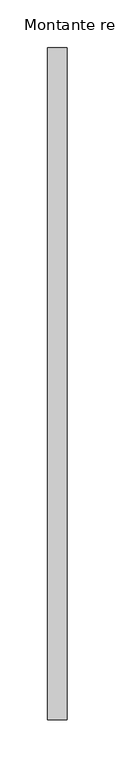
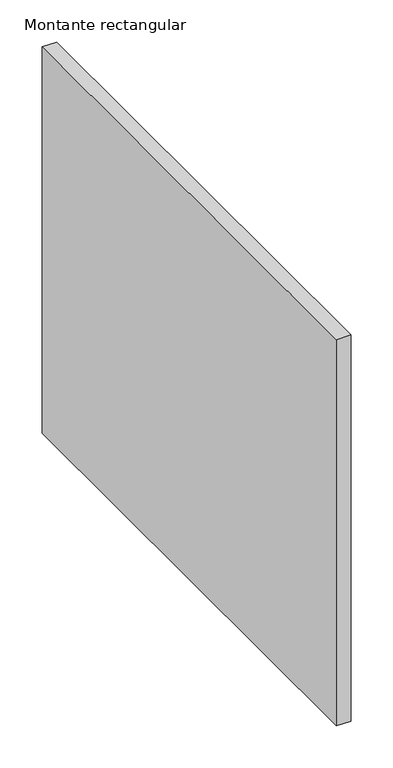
"""IFC4 building model written with IfcOpenShell, lengths in millimetres: member geometry, Montante rectangular : CIRCLES 2."""

from ifc_helpers import new_model, si_unit, frame, origin, place, context, project, spatial, polyline, outline, extrude, source, transform, mapped, element, save


def montante_rectangular_cd6e0c02(model_context):
    return source(origin(), model_context, "Body", "SweptSolid", [
        extrude(outline(polyline([(-20.0, 350.0), (0.0, 350.0), (0.0, -350.0), (-20.0, -350.0), (-20.0, 350.0)])), frame((0.0, 0.0, -560.0), z_axis=(0.0, 0.0, 1.0), x_axis=(1.0, 0.0, 0.0)), (0.0, 0.0, 1.0), 560.0),
    ])


if __name__ == "__main__":
    model = new_model("IFC4")
    model_context = context("Model", 3, world=origin())
    ifc_project = project(units=[si_unit("LENGTHUNIT", "METRE", prefix="MILLI")], contexts=[model_context])
    site = spatial("IfcSite", under=ifc_project)
    building = spatial("IfcBuilding", under=site)
    placement = place(None, origin())
    montante_rectangular_shape = montante_rectangular_cd6e0c02(model_context)
    element("IfcMember", 1, ObjectType="Montante rectangular : CIRCLES 2", at=placement, inside=building, context=model_context, shape_type="MappedRepresentation", body=[
        mapped(montante_rectangular_shape, transform((0.0, 0.0, 0.0), x_axis=(1.0, 0.0, 0.0), y_axis=(0.0, 1.0, 0.0), z_axis=(0.0, 0.0, 1.0))),
    ])
    save(model, "model.ifc")
